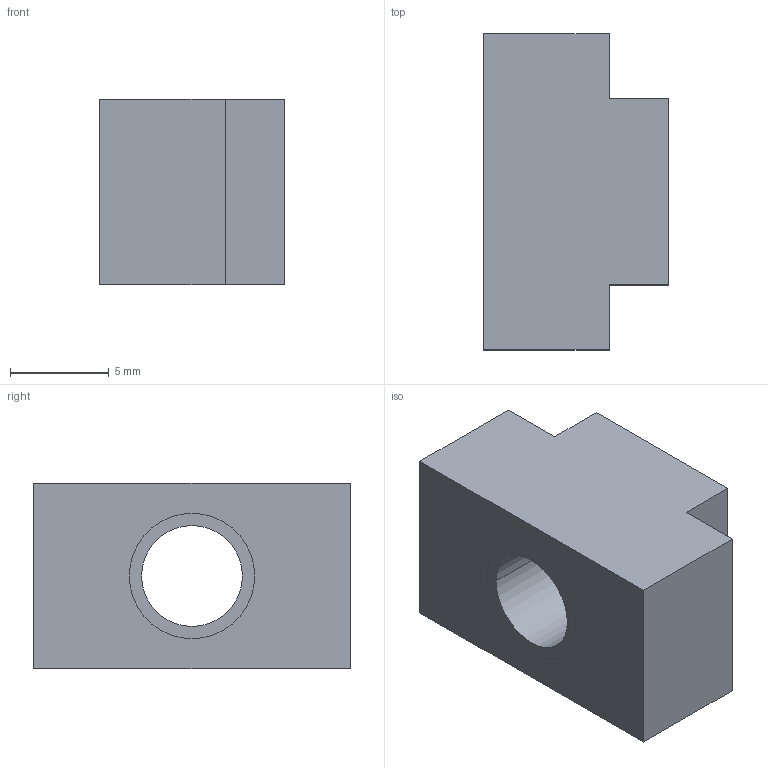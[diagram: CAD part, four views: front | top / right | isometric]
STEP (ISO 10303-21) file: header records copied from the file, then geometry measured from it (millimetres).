
FILE_DESCRIPTION((''),'2;1');
FILE_NAME('200124M','2016-05-31T',('adam.dellomodarme'),(''),'PRO/ENGINEER BY PARAMETRIC TECHNOLOGY CORPORATION, 2012420','PRO/ENGINEER BY PARAMETRIC TECHNOLOGY CORPORATION, 2012420','');
FILE_SCHEMA(('CONFIG_CONTROL_DESIGN'));
Length unit declared in the file: inch
Products named in the file (1): 200124M
Bounding box: 9.35 x 16 x 9.4 mm (x, y, z)
Volume: 1024.8 mm3; surface area: 1025.7 mm2
Topology: 1 solids, 2 shells, 16 faces, 40 edges, 26 vertices
Faces by surface type: plane 10, cylinder 4, cone 2
Entity records: 528 total; most frequent: DIRECTION 84, CARTESIAN_POINT 83, ORIENTED_EDGE 76, EDGE_CURVE 40, VECTOR 30, LINE 30, AXIS2_PLACEMENT_3D 27, VERTEX_POINT 26
